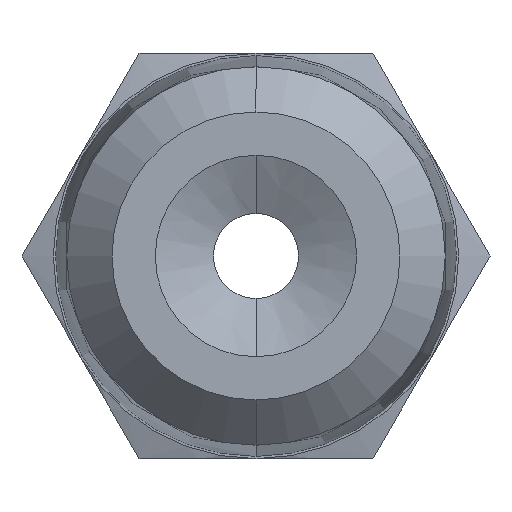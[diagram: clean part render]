
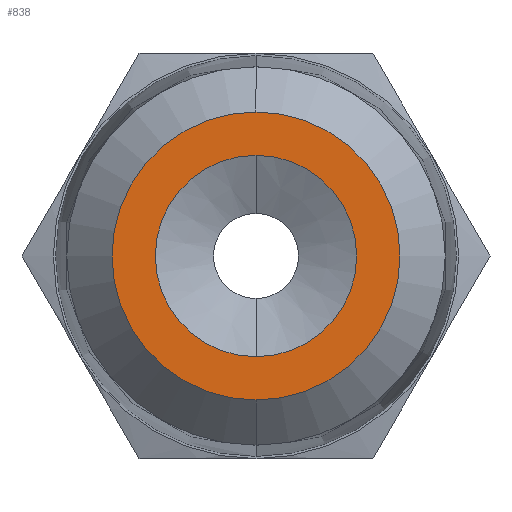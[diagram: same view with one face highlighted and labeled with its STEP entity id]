
A CAD part, left-side view. The second image highlights one B-rep face of the part: STEP entity #838.
In plain terms, the highlighted planar face has unit normal (-1, 0, 0).
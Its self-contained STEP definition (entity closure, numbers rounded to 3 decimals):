
#9 = DIRECTION ( 'NONE',  ( 0., 0., 1. ) ) ;
#10 = DIRECTION ( 'NONE',  ( -1., 0., 0. ) ) ;
#11 = CARTESIAN_POINT ( 'NONE',  ( -14., 0., 0. ) ) ;
#12 = AXIS2_PLACEMENT_3D ( 'NONE', #11, #10, #9 ) ;
#13 = CIRCLE ( 'NONE', #12, 3.55 ) ;
#28 = FACE_OUTER_BOUND ( 'NONE', #839, .T. ) ;
#33 = PLANE ( 'NONE',  #168 ) ;
#34 = FACE_BOUND ( 'NONE', #978, .T. ) ;
#165 = DIRECTION ( 'NONE',  ( 0., 0., 1. ) ) ;
#166 = DIRECTION ( 'NONE',  ( -1., 0., 0. ) ) ;
#167 = CARTESIAN_POINT ( 'NONE',  ( -14., 0., 0. ) ) ;
#168 = AXIS2_PLACEMENT_3D ( 'NONE', #167, #166, #165 ) ;
#220 = DIRECTION ( 'NONE',  ( 0., 0., 1. ) ) ;
#221 = DIRECTION ( 'NONE',  ( -1., 0., 0. ) ) ;
#222 = CARTESIAN_POINT ( 'NONE',  ( -14., 0., 0. ) ) ;
#223 = AXIS2_PLACEMENT_3D ( 'NONE', #222, #221, #220 ) ;
#224 = CIRCLE ( 'NONE', #223, 5.077 ) ;
#590 = VERTEX_POINT ( 'NONE', #1012 ) ;
#643 = VERTEX_POINT ( 'NONE', #1188 ) ;
#644 = EDGE_CURVE ( 'NONE', #643, #656, #1187, .T. ) ;
#656 = VERTEX_POINT ( 'NONE', #1159 ) ;
#675 = VERTEX_POINT ( 'NONE', #1095 ) ;
#701 = EDGE_CURVE ( 'NONE', #590, #675, #1259, .T. ) ;
#811 = EDGE_CURVE ( 'NONE', #656, #643, #13, .T. ) ;
#838 = ADVANCED_FACE ( 'NONE', ( #28, #34 ), #33, .T. ) ;
#839 = EDGE_LOOP ( 'NONE', ( #841, #977 ) ) ;
#841 = ORIENTED_EDGE ( 'NONE', *, *, #979, .T. ) ;
#948 = ORIENTED_EDGE ( 'NONE', *, *, #811, .F. ) ;
#950 = ORIENTED_EDGE ( 'NONE', *, *, #644, .F. ) ;
#977 = ORIENTED_EDGE ( 'NONE', *, *, #701, .T. ) ;
#978 = EDGE_LOOP ( 'NONE', ( #948, #950 ) ) ;
#979 = EDGE_CURVE ( 'NONE', #675, #590, #224, .T. ) ;
#1012 = CARTESIAN_POINT ( 'NONE',  ( -14., 0., 5.077 ) ) ;
#1095 = CARTESIAN_POINT ( 'NONE',  ( -14., 0., -5.077 ) ) ;
#1159 = CARTESIAN_POINT ( 'NONE',  ( -14., 0., 3.55 ) ) ;
#1183 = DIRECTION ( 'NONE',  ( 0., 0., 1. ) ) ;
#1184 = DIRECTION ( 'NONE',  ( -1., 0., 0. ) ) ;
#1185 = CARTESIAN_POINT ( 'NONE',  ( -14., 0., 0. ) ) ;
#1186 = AXIS2_PLACEMENT_3D ( 'NONE', #1185, #1184, #1183 ) ;
#1187 = CIRCLE ( 'NONE', #1186, 3.55 ) ;
#1188 = CARTESIAN_POINT ( 'NONE',  ( -14., 0., -3.55 ) ) ;
#1255 = DIRECTION ( 'NONE',  ( 0., 0., 1. ) ) ;
#1256 = DIRECTION ( 'NONE',  ( -1., 0., 0. ) ) ;
#1257 = CARTESIAN_POINT ( 'NONE',  ( -14., 0., 0. ) ) ;
#1258 = AXIS2_PLACEMENT_3D ( 'NONE', #1257, #1256, #1255 ) ;
#1259 = CIRCLE ( 'NONE', #1258, 5.077 ) ;
